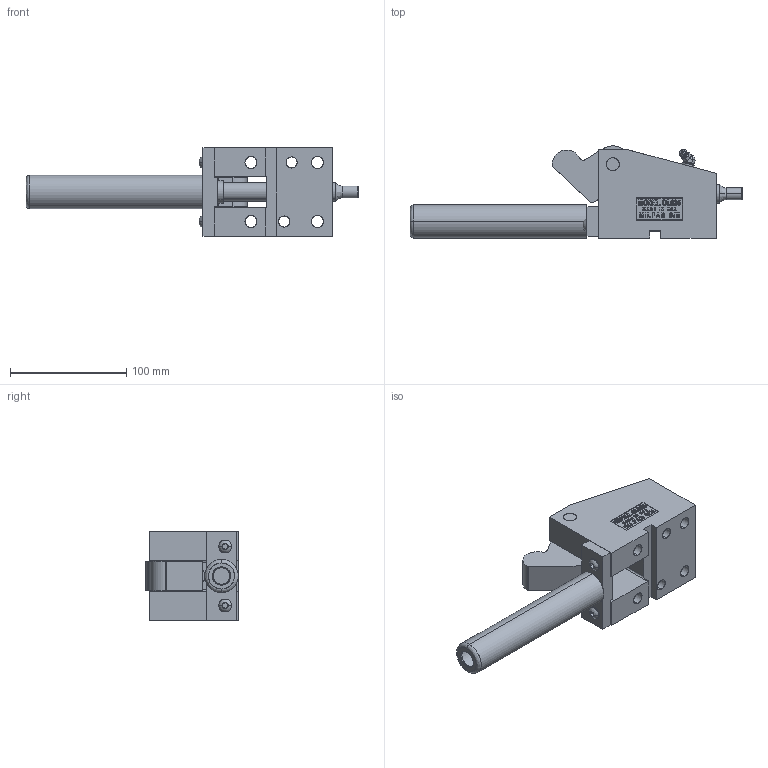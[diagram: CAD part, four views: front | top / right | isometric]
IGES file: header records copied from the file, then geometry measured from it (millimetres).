
Start section: SolidWorks IGES file using analytic representation for surfaces
Global section: file name: Y:\JIM'S INCH CAM UNITS\OL62545\OPEN\OL62545-O.IGS; native system: SolidWorks 2006 by SolidWorks Corporation; preprocessor: SolidWorks 2006 by SolidWorks Corporation; author: Jim; date: 090205.111946; units: inch
Bounding box: 285.62 x 79.37 x 76.2 mm (x, y, z)
Surface area: 115949.9 mm2 (no closed solid volume)
Topology: 0 solids, 0 shells, 593 faces, 7761 edges, 7759 vertices
Faces by surface type: bspline 465, revolution 128
